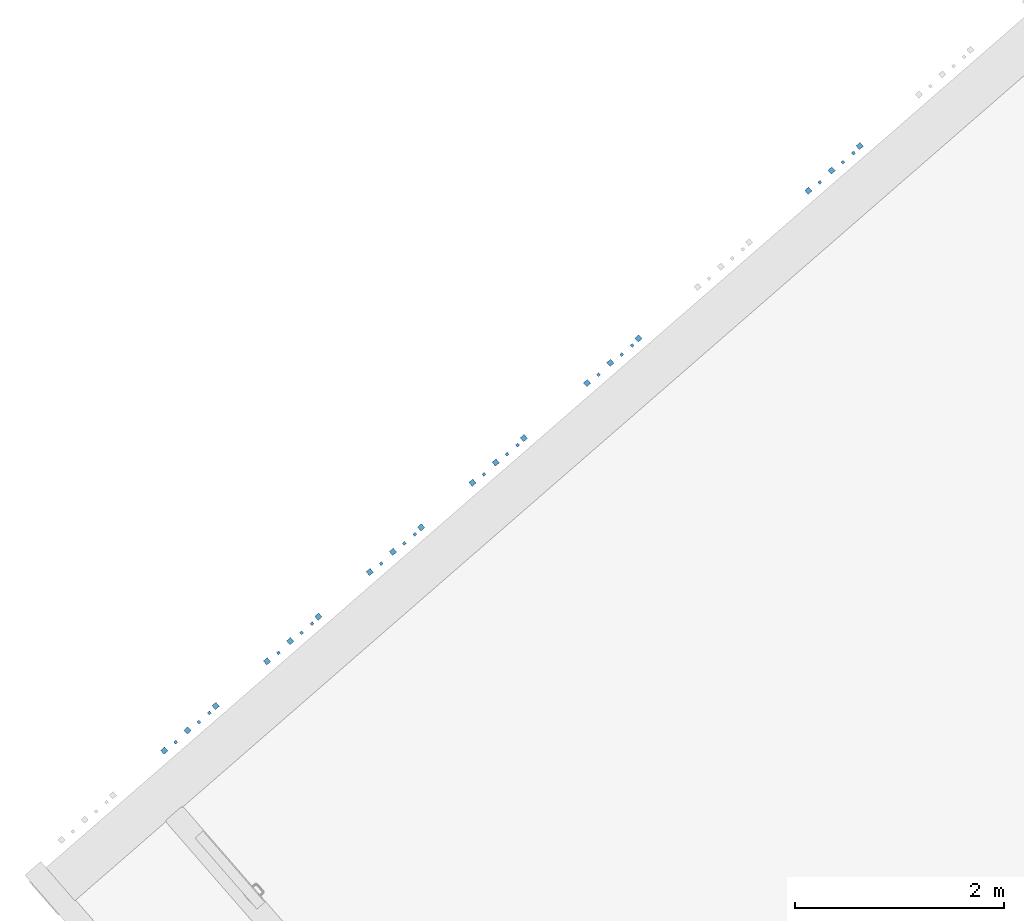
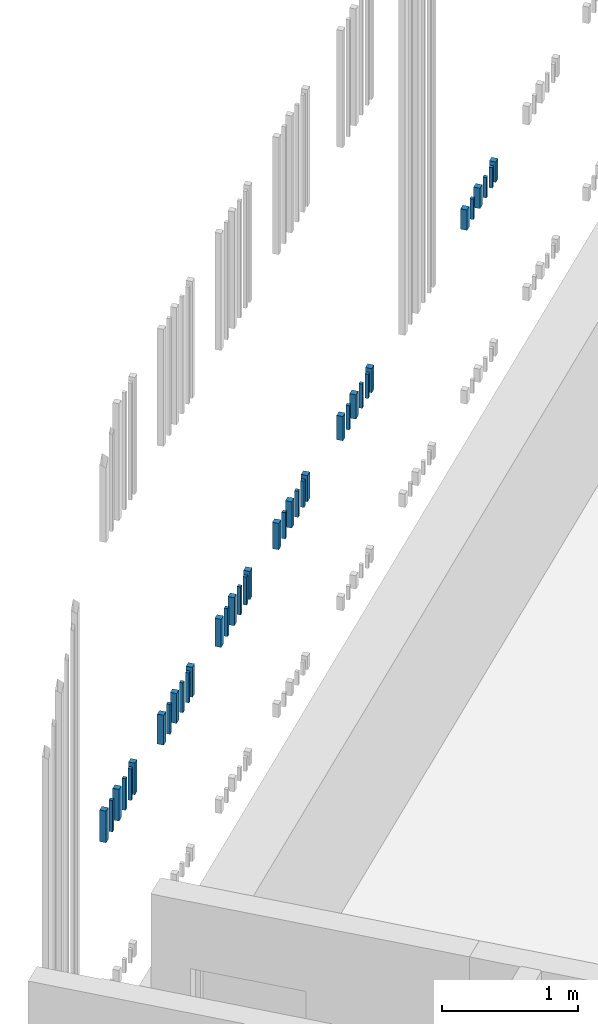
# One storey, part 94 of 124: 36 walls.
"""IFC2X3 building model written with IfcOpenShell, lengths in millimetres."""

from ifc_helpers import new_model, entity, si_unit, converted_unit, derived_unit, money_unit, direction, frame, origin_with_axes, place, context, subcontext, project, spatial, faceted_brep, material, type_object, element, save


model = new_model("IFC2X3")

# Units and contexts
model_context = context("Model", 3, precision=1e-05, world=origin_with_axes(), true_north=direction((0.0, 1.0)))
body_context = subcontext(model_context, "Body", "Model", "MODEL_VIEW")
ifc_project = project(units=[si_unit("LENGTHUNIT", "METRE", prefix="MILLI"), si_unit("AREAUNIT", "SQUARE_METRE"), si_unit("VOLUMEUNIT", "CUBIC_METRE"), converted_unit("PLANEANGLEUNIT", "DEGREE", entity("IfcPlaneAngleMeasure", 0.0174532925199), si_unit("PLANEANGLEUNIT", "RADIAN"), dimensions=[0, 0, 0, 0, 0, 0, 0]), si_unit("SOLIDANGLEUNIT", "STERADIAN"), money_unit("EUR"), converted_unit("TIMEUNIT", "Year", entity("IfcTimeMeasure", 31556926.0), si_unit("TIMEUNIT", "SECOND"), dimensions=[0, 0, 1, 0, 0, 0, 0]), si_unit("MASSUNIT", "GRAM", prefix="KILO"), si_unit("THERMODYNAMICTEMPERATUREUNIT", "DEGREE_CELSIUS"), si_unit("LUMINOUSINTENSITYUNIT", "LUMEN"), si_unit("ENERGYUNIT", "JOULE", prefix="MEGA"), derived_unit("THERMALCONDUCTANCEUNIT", [(si_unit("POWERUNIT", "WATT"), 1), (si_unit("LENGTHUNIT", "METRE"), -1), (si_unit("THERMODYNAMICTEMPERATUREUNIT", "KELVIN"), -1)]), derived_unit("SPECIFICHEATCAPACITYUNIT", [(si_unit("ENERGYUNIT", "JOULE"), 1), (si_unit("MASSUNIT", "GRAM", prefix="KILO"), -1), (si_unit("THERMODYNAMICTEMPERATUREUNIT", "KELVIN"), -1)]), derived_unit("MASSDENSITYUNIT", [(si_unit("MASSUNIT", "GRAM", prefix="KILO"), 1), (si_unit("VOLUMEUNIT", "CUBIC_METRE"), -1)])], contexts=[model_context])

# Site, building, storey
site_placement = place(None, origin_with_axes())
site = spatial("IfcSite", under=ifc_project, at=site_placement, Name="Site", CompositionType="ELEMENT")
building_placement = place(site_placement, origin_with_axes())
building = spatial("IfcBuilding", under=site, at=building_placement, Name="Building", CompositionType="ELEMENT")
storey_placement = place(building_placement, frame((0.0, 0.0, -1615.0), z_axis=(0.0, 0.0, 1.0), x_axis=(1.0, 0.0, 0.0)))
storey = spatial("IfcBuildingStorey", under=building, at=storey_placement, Name="0  korrus", CompositionType="ELEMENT", Elevation=-1615.0)

# Walls
ifc_material = material(Name="Site specified")
wall_type = type_object("IfcWallType", Name="Puitfassaadi ribistik", PredefinedType="NOTDEFINED")
wall_1_placement = place(storey_placement, frame((138837.657922, 90711.5753852, 3075.70557961), z_axis=(0.0, 0.0, 1.0), x_axis=(0.754709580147, 0.656059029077, 0.0)))
element("IfcWall", 1, at=wall_1_placement, inside=storey, type_object=wall_type, material=ifc_material, Name="Site specified", context=body_context, shape_type="Brep", body=[
    faceted_brep([(14.0, 14.0, 283.294420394), (14.0, 14.0, 0.0), (-14.0, 14.0, 0.0), (-14.0, 14.0, 283.294420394), (14.0, -14.0, 283.294420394), (14.0, -14.0, 0.0), (-14.0, -14.0, 0.0), (-14.0, -14.0, 283.294420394)], [[[0, 1, 2, 3]], [[4, 5, 1, 0]], [[2, 1, 5, 6]], [[3, 2, 6, 7]], [[4, 0, 3, 7]], [[7, 6, 5, 4]]]),
])
wall_2_placement = place(storey_placement, frame((138507.423715, 90439.0823112, 3075.70557961), z_axis=(0.0, 0.0, 1.0), x_axis=(0.754709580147, 0.656059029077, 0.0)))
element("IfcWall", 2, at=wall_2_placement, inside=storey, type_object=wall_type, material=ifc_material, Name="Site specified", context=body_context, shape_type="Brep", body=[
    faceted_brep([(25.0, 25.0, 283.294420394), (25.0, 25.0, 0.0), (-25.0, 25.0, 0.0), (-25.0, 25.0, 283.294420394), (25.0, -25.0, 283.294420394), (25.0, -25.0, 0.0), (-25.0, -25.0, 0.0), (-25.0, -25.0, 283.294420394)], [[[0, 1, 2, 3]], [[4, 5, 1, 0]], [[2, 1, 5, 6]], [[3, 2, 6, 7]], [[4, 0, 3, 7]], [[7, 6, 5, 4]]]),
])
for number, where, z_axis, x_axis, name in (
    (3, (138616.528037, 90519.3501086, 3075.70557961), (0.0, 0.0, 1.0), (0.754709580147, 0.656059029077, 0.0), "Site specified"),
    (4, (138938.034296, 90798.8312355, 3075.70557961), (0.0, 0.0, 1.0), (0.754709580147, 0.656059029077, 0.0), "Site specified"),
):
    element("IfcWall", number, at=place(storey_placement, frame(where, z_axis=z_axis, x_axis=x_axis)), inside=storey, type_object=wall_type, material=ifc_material, Name=name, context=body_context, shape_type="Brep", body=[
        faceted_brep([(14.0, 14.0, 283.294420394), (14.0, 14.0, 0.0), (-14.0, 14.0, 0.0), (-14.0, 14.0, 283.294420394), (14.0, -14.0, 283.294420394), (14.0, -14.0, 0.0), (-14.0, -14.0, 0.0), (-14.0, -14.0, 283.294420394)], [[[0, 1, 2, 3]], [[4, 5, 1, 0]], [[2, 1, 5, 6]], [[3, 2, 6, 7]], [[4, 0, 3, 7]], [[7, 6, 5, 4]]]),
    ])
for number, where, z_axis, x_axis, name in (
    (5, (138997.989192, 90865.5243744, 3075.70557961), (0.0, 0.0, 1.0), (0.754709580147, 0.656059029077, 0.0), "Site specified"),
    (6, (138729.30833, 90631.9636643, 3075.70557961), (0.0, 0.0, 1.0), (0.754709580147, 0.656059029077, 0.0), "Site specified"),
):
    element("IfcWall", number, at=place(storey_placement, frame(where, z_axis=z_axis, x_axis=x_axis)), inside=storey, type_object=wall_type, material=ifc_material, Name=name, context=body_context, shape_type="Brep", body=[
        faceted_brep([(25.0, 25.0, 283.294420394), (25.0, 25.0, 0.0), (-25.0, 25.0, 0.0), (-25.0, 25.0, 283.294420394), (25.0, -25.0, 283.294420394), (25.0, -25.0, 0.0), (-25.0, -25.0, 0.0), (-25.0, -25.0, 283.294420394)], [[[0, 1, 2, 3]], [[4, 5, 1, 0]], [[2, 1, 5, 6]], [[3, 2, 6, 7]], [[4, 0, 3, 7]], [[7, 6, 5, 4]]]),
    ])
for number, where, z_axis, x_axis, name in (
    (7, (139710.430781, 91484.8403996, 3090.84926597), (0.0, 0.0, 1.0), (0.754709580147, 0.656059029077, 0.0), "Site specified"),
    (8, (139979.111643, 91718.4011098, 3090.84926597), (0.0, 0.0, 1.0), (0.754709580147, 0.656059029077, 0.0), "Site specified"),
):
    element("IfcWall", number, at=place(storey_placement, frame(where, z_axis=z_axis, x_axis=x_axis)), inside=storey, type_object=wall_type, material=ifc_material, Name=name, context=body_context, shape_type="Brep", body=[
        faceted_brep([(25.0, 25.0, 268.150734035), (25.0, 25.0, 0.0), (-25.0, 25.0, 0.0), (-25.0, 25.0, 268.150734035), (25.0, -25.0, 268.150734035), (25.0, -25.0, 0.0), (-25.0, -25.0, 0.0), (-25.0, -25.0, 268.150734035)], [[[0, 1, 2, 3]], [[4, 5, 1, 0]], [[2, 1, 5, 6]], [[3, 2, 6, 7]], [[4, 0, 3, 7]], [[7, 6, 5, 4]]]),
    ])
wall_3_placement = place(storey_placement, frame((139818.780374, 91564.4521205, 3090.84926597), z_axis=(0.0, 0.0, 1.0), x_axis=(0.754709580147, 0.656059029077, 0.0)))
element("IfcWall", 9, at=wall_3_placement, inside=storey, type_object=wall_type, material=ifc_material, Name="Site specified", context=body_context, shape_type="Brep", body=[
    faceted_brep([(14.0, 14.0, 268.150734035), (14.0, 14.0, 0.0), (-14.0, 14.0, 0.0), (-14.0, 14.0, 268.150734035), (14.0, -14.0, 268.150734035), (14.0, -14.0, 0.0), (-14.0, -14.0, 0.0), (-14.0, -14.0, 268.150734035)], [[[0, 1, 2, 3]], [[4, 5, 1, 0]], [[2, 1, 5, 6]], [[3, 2, 6, 7]], [[4, 0, 3, 7]], [[7, 6, 5, 4]]]),
])
wall_4_placement = place(storey_placement, frame((139488.546166, 91291.9590465, 3090.84926597), z_axis=(0.0, 0.0, 1.0), x_axis=(0.754709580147, 0.656059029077, 0.0)))
element("IfcWall", 10, at=wall_4_placement, inside=storey, type_object=wall_type, material=ifc_material, Name="Site specified", context=body_context, shape_type="Brep", body=[
    faceted_brep([(25.0, 25.0, 268.150734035), (25.0, 25.0, 0.0), (-25.0, 25.0, 0.0), (-25.0, 25.0, 268.150734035), (25.0, -25.0, 268.150734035), (25.0, -25.0, 0.0), (-25.0, -25.0, 0.0), (-25.0, -25.0, 268.150734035)], [[[0, 1, 2, 3]], [[4, 5, 1, 0]], [[2, 1, 5, 6]], [[3, 2, 6, 7]], [[4, 0, 3, 7]], [[7, 6, 5, 4]]]),
])
for number, where, z_axis, x_axis, name in (
    (11, (139919.156747, 91651.7079708, 3090.84926597), (0.0, 0.0, 1.0), (0.754709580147, 0.656059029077, 0.0), "Site specified"),
    (12, (139597.650489, 91372.2268439, 3090.84926597), (0.0, 0.0, 1.0), (0.754709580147, 0.656059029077, 0.0), "Site specified"),
):
    element("IfcWall", number, at=place(storey_placement, frame(where, z_axis=z_axis, x_axis=x_axis)), inside=storey, type_object=wall_type, material=ifc_material, Name=name, context=body_context, shape_type="Brep", body=[
        faceted_brep([(14.0, 14.0, 268.150734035), (14.0, 14.0, 0.0), (-14.0, 14.0, 0.0), (-14.0, 14.0, 268.150734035), (14.0, -14.0, 268.150734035), (14.0, -14.0, 0.0), (-14.0, -14.0, 0.0), (-14.0, -14.0, 268.150734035)], [[[0, 1, 2, 3]], [[4, 5, 1, 0]], [[2, 1, 5, 6]], [[3, 2, 6, 7]], [[4, 0, 3, 7]], [[7, 6, 5, 4]]]),
    ])
for number, where, z_axis, x_axis, name in (
    (13, (140960.2341, 92571.2778501, 3106.90171915), (0.0, 0.0, 1.0), (0.754709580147, 0.656059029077, 0.0), "Site specified"),
    (14, (140691.553238, 92337.7171399, 3106.90171915), (0.0, 0.0, 1.0), (0.754709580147, 0.656059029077, 0.0), "Site specified"),
):
    element("IfcWall", number, at=place(storey_placement, frame(where, z_axis=z_axis, x_axis=x_axis)), inside=storey, type_object=wall_type, material=ifc_material, Name=name, context=body_context, shape_type="Brep", body=[
        faceted_brep([(25.0, 25.0, 252.09828085), (25.0, 25.0, 0.0), (-25.0, 25.0, 0.0), (-25.0, 25.0, 252.09828085), (25.0, -25.0, 252.09828085), (25.0, -25.0, 0.0), (-25.0, -25.0, 0.0), (-25.0, -25.0, 252.09828085)], [[[0, 1, 2, 3]], [[4, 5, 1, 0]], [[2, 1, 5, 6]], [[3, 2, 6, 7]], [[4, 0, 3, 7]], [[7, 6, 5, 4]]]),
    ])
for number, where, z_axis, x_axis, name in (
    (15, (140578.772946, 92225.1035843, 3106.90171915), (0.0, 0.0, 1.0), (0.754709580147, 0.656059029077, 0.0), "Site specified"),
    (16, (140799.902831, 92417.3288608, 3106.90171915), (0.0, 0.0, 1.0), (0.754709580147, 0.656059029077, 0.0), "Site specified"),
    (17, (140900.279204, 92504.5847111, 3106.90171915), (0.0, 0.0, 1.0), (0.754709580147, 0.656059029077, 0.0), "Site specified"),
):
    element("IfcWall", number, at=place(storey_placement, frame(where, z_axis=z_axis, x_axis=x_axis)), inside=storey, type_object=wall_type, material=ifc_material, Name=name, context=body_context, shape_type="Brep", body=[
        faceted_brep([(14.0, 14.0, 252.09828085), (14.0, 14.0, 0.0), (-14.0, 14.0, 0.0), (-14.0, 14.0, 252.09828085), (14.0, -14.0, 252.09828085), (14.0, -14.0, 0.0), (-14.0, -14.0, 0.0), (-14.0, -14.0, 252.09828085)], [[[0, 1, 2, 3]], [[4, 5, 1, 0]], [[2, 1, 5, 6]], [[3, 2, 6, 7]], [[4, 0, 3, 7]], [[7, 6, 5, 4]]]),
    ])
wall_5_placement = place(storey_placement, frame((144658.306793, 95785.9633982, 3175.68890067), z_axis=(0.0, 0.0, 1.0), x_axis=(0.754709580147, 0.656059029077, 0.0)))
element("IfcWall", 18, at=wall_5_placement, inside=storey, type_object=wall_type, material=ifc_material, Name="Site specified", context=body_context, shape_type="Brep", body=[
    faceted_brep([(25.0, 25.0, 183.31109933), (25.0, 25.0, 0.0), (-25.0, 25.0, 0.0), (-25.0, 25.0, 183.31109933), (25.0, -25.0, 183.31109933), (25.0, -25.0, 0.0), (-25.0, -25.0, 0.0), (-25.0, -25.0, 183.31109933)], [[[0, 1, 2, 3]], [[4, 5, 1, 0]], [[2, 1, 5, 6]], [[3, 2, 6, 7]], [[4, 0, 3, 7]], [[7, 6, 5, 4]]]),
])
for number, where, z_axis, x_axis, name in (
    (19, (144767.411115, 95866.2311957, 3175.68890067), (0.0, 0.0, 1.0), (0.754709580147, 0.656059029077, 0.0), "Site specified"),
    (20, (145088.917374, 96145.7123225, 3175.68890067), (0.0, 0.0, 1.0), (0.754709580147, 0.656059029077, 0.0), "Site specified"),
):
    element("IfcWall", number, at=place(storey_placement, frame(where, z_axis=z_axis, x_axis=x_axis)), inside=storey, type_object=wall_type, material=ifc_material, Name=name, context=body_context, shape_type="Brep", body=[
        faceted_brep([(14.0, 14.0, 183.31109933), (14.0, 14.0, 0.0), (-14.0, 14.0, 0.0), (-14.0, 14.0, 183.31109933), (14.0, -14.0, 183.31109933), (14.0, -14.0, 0.0), (-14.0, -14.0, 0.0), (-14.0, -14.0, 183.31109933)], [[[0, 1, 2, 3]], [[4, 5, 1, 0]], [[2, 1, 5, 6]], [[3, 2, 6, 7]], [[4, 0, 3, 7]], [[7, 6, 5, 4]]]),
    ])
wall_6_placement = place(storey_placement, frame((145148.87227, 96212.4054615, 3175.68890067), z_axis=(0.0, 0.0, 1.0), x_axis=(0.754709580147, 0.656059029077, 0.0)))
element("IfcWall", 21, at=wall_6_placement, inside=storey, type_object=wall_type, material=ifc_material, Name="Site specified", context=body_context, shape_type="Brep", body=[
    faceted_brep([(25.0, 25.0, 183.31109933), (25.0, 25.0, 0.0), (-25.0, 25.0, 0.0), (-25.0, 25.0, 183.31109933), (25.0, -25.0, 183.31109933), (25.0, -25.0, 0.0), (-25.0, -25.0, 0.0), (-25.0, -25.0, 183.31109933)], [[[0, 1, 2, 3]], [[4, 5, 1, 0]], [[2, 1, 5, 6]], [[3, 2, 6, 7]], [[4, 0, 3, 7]], [[7, 6, 5, 4]]]),
])
wall_7_placement = place(storey_placement, frame((144988.541001, 96058.4564722, 3175.68890067), z_axis=(0.0, 0.0, 1.0), x_axis=(0.754709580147, 0.656059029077, 0.0)))
element("IfcWall", 22, at=wall_7_placement, inside=storey, type_object=wall_type, material=ifc_material, Name="Site specified", context=body_context, shape_type="Brep", body=[
    faceted_brep([(14.0, 14.0, 183.31109933), (14.0, 14.0, 0.0), (-14.0, 14.0, 0.0), (-14.0, 14.0, 183.31109933), (14.0, -14.0, 183.31109933), (14.0, -14.0, 0.0), (-14.0, -14.0, 0.0), (-14.0, -14.0, 183.31109933)], [[[0, 1, 2, 3]], [[4, 5, 1, 0]], [[2, 1, 5, 6]], [[3, 2, 6, 7]], [[4, 0, 3, 7]], [[7, 6, 5, 4]]]),
])
wall_8_placement = place(storey_placement, frame((144880.191408, 95978.8447513, 3175.68890067), z_axis=(0.0, 0.0, 1.0), x_axis=(0.754709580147, 0.656059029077, 0.0)))
element("IfcWall", 23, at=wall_8_placement, inside=storey, type_object=wall_type, material=ifc_material, Name="Site specified", context=body_context, shape_type="Brep", body=[
    faceted_brep([(25.0, 25.0, 183.31109933), (25.0, 25.0, 0.0), (-25.0, 25.0, 0.0), (-25.0, 25.0, 183.31109933), (25.0, -25.0, 183.31109933), (25.0, -25.0, 0.0), (-25.0, -25.0, 0.0), (-25.0, -25.0, 183.31109933)], [[[0, 1, 2, 3]], [[4, 5, 1, 0]], [[2, 1, 5, 6]], [[3, 2, 6, 7]], [[4, 0, 3, 7]], [[7, 6, 5, 4]]]),
])
wall_9_placement = place(storey_placement, frame((140469.668623, 92144.8357868, 3106.90171915), z_axis=(0.0, 0.0, 1.0), x_axis=(0.754709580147, 0.656059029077, 0.0)))
element("IfcWall", 24, at=wall_9_placement, inside=storey, type_object=wall_type, material=ifc_material, Name="Site specified", context=body_context, shape_type="Brep", body=[
    faceted_brep([(25.0, 25.0, 252.09828085), (25.0, 25.0, 0.0), (-25.0, 25.0, 0.0), (-25.0, 25.0, 252.09828085), (25.0, -25.0, 252.09828085), (25.0, -25.0, 0.0), (-25.0, -25.0, 0.0), (-25.0, -25.0, 252.09828085)], [[[0, 1, 2, 3]], [[4, 5, 1, 0]], [[2, 1, 5, 6]], [[3, 2, 6, 7]], [[4, 0, 3, 7]], [[7, 6, 5, 4]]]),
])
wall_10_placement = place(storey_placement, frame((141559.895155, 93077.9801088, 3122.99357175), z_axis=(0.0, 0.0, 1.0), x_axis=(0.754709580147, 0.656059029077, 0.0)))
element("IfcWall", 25, at=wall_10_placement, inside=storey, type_object=wall_type, material=ifc_material, Name="Site specified", context=body_context, shape_type="Brep", body=[
    faceted_brep([(14.0, 14.0, 236.006428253), (14.0, 14.0, 0.0), (-14.0, 14.0, 0.0), (-14.0, 14.0, 236.006428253), (14.0, -14.0, 236.006428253), (14.0, -14.0, 0.0), (-14.0, -14.0, 0.0), (-14.0, -14.0, 236.006428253)], [[[0, 1, 2, 3]], [[4, 5, 1, 0]], [[2, 1, 5, 6]], [[3, 2, 6, 7]], [[4, 0, 3, 7]], [[7, 6, 5, 4]]]),
])
wall_11_placement = place(storey_placement, frame((141450.790832, 92997.7123114, 3122.99357175), z_axis=(0.0, 0.0, 1.0), x_axis=(0.754709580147, 0.656059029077, 0.0)))
element("IfcWall", 26, at=wall_11_placement, inside=storey, type_object=wall_type, material=ifc_material, Name="Site specified", context=body_context, shape_type="Brep", body=[
    faceted_brep([(25.0, 25.0, 236.006428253), (25.0, 25.0, 0.0), (-25.0, 25.0, 0.0), (-25.0, 25.0, 236.006428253), (25.0, -25.0, 236.006428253), (25.0, -25.0, 0.0), (-25.0, -25.0, 0.0), (-25.0, -25.0, 236.006428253)], [[[0, 1, 2, 3]], [[4, 5, 1, 0]], [[2, 1, 5, 6]], [[3, 2, 6, 7]], [[4, 0, 3, 7]], [[7, 6, 5, 4]]]),
])
for number, where, z_axis, x_axis, name in (
    (27, (141881.401413, 93357.4612357, 3122.99357175), (0.0, 0.0, 1.0), (0.754709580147, 0.656059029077, 0.0), "Site specified"),
    (28, (141781.02504, 93270.2053854, 3122.99357175), (0.0, 0.0, 1.0), (0.754709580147, 0.656059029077, 0.0), "Site specified"),
):
    element("IfcWall", number, at=place(storey_placement, frame(where, z_axis=z_axis, x_axis=x_axis)), inside=storey, type_object=wall_type, material=ifc_material, Name=name, context=body_context, shape_type="Brep", body=[
        faceted_brep([(14.0, 14.0, 236.006428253), (14.0, 14.0, 0.0), (-14.0, 14.0, 0.0), (-14.0, 14.0, 236.006428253), (14.0, -14.0, 236.006428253), (14.0, -14.0, 0.0), (-14.0, -14.0, 0.0), (-14.0, -14.0, 236.006428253)], [[[0, 1, 2, 3]], [[4, 5, 1, 0]], [[2, 1, 5, 6]], [[3, 2, 6, 7]], [[4, 0, 3, 7]], [[7, 6, 5, 4]]]),
    ])
for number, where, z_axis, x_axis, name in (
    (29, (141941.356309, 93424.1543746, 3122.99357175), (0.0, 0.0, 1.0), (0.754709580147, 0.656059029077, 0.0), "Site specified"),
    (30, (141672.675447, 93190.5936645, 3122.99357175), (0.0, 0.0, 1.0), (0.754709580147, 0.656059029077, 0.0), "Site specified"),
):
    element("IfcWall", number, at=place(storey_placement, frame(where, z_axis=z_axis, x_axis=x_axis)), inside=storey, type_object=wall_type, material=ifc_material, Name=name, context=body_context, shape_type="Brep", body=[
        faceted_brep([(25.0, 25.0, 236.006428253), (25.0, 25.0, 0.0), (-25.0, 25.0, 0.0), (-25.0, 25.0, 236.006428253), (25.0, -25.0, 236.006428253), (25.0, -25.0, 0.0), (-25.0, -25.0, 0.0), (-25.0, -25.0, 236.006428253)], [[[0, 1, 2, 3]], [[4, 5, 1, 0]], [[2, 1, 5, 6]], [[3, 2, 6, 7]], [[4, 0, 3, 7]], [[7, 6, 5, 4]]]),
    ])
wall_12_placement = place(storey_placement, frame((142545.119969, 93948.9981168, 3140.96357238), z_axis=(0.0, 0.0, 1.0), x_axis=(0.754709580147, 0.656059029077, 0.0)))
element("IfcWall", 31, at=wall_12_placement, inside=storey, type_object=wall_type, material=ifc_material, Name="Site specified", context=body_context, shape_type="Brep", body=[
    faceted_brep([(25.0, 25.0, 218.036427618), (25.0, 25.0, 0.0), (-25.0, 25.0, 0.0), (-25.0, 25.0, 218.036427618), (25.0, -25.0, 218.036427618), (25.0, -25.0, 0.0), (-25.0, -25.0, 0.0), (-25.0, -25.0, 218.036427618)], [[[0, 1, 2, 3]], [[4, 5, 1, 0]], [[2, 1, 5, 6]], [[3, 2, 6, 7]], [[4, 0, 3, 7]], [[7, 6, 5, 4]]]),
])
for number, where, z_axis, x_axis, name in (
    (32, (142654.224291, 94029.2659142, 3140.96357238), (0.0, 0.0, 1.0), (0.754709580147, 0.656059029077, 0.0), "Site specified"),
    (33, (142975.73055, 94308.7470411, 3140.96357238), (0.0, 0.0, 1.0), (0.754709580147, 0.656059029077, 0.0), "Site specified"),
    (34, (142875.354176, 94221.4911908, 3140.96357238), (0.0, 0.0, 1.0), (0.754709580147, 0.656059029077, 0.0), "Site specified"),
):
    element("IfcWall", number, at=place(storey_placement, frame(where, z_axis=z_axis, x_axis=x_axis)), inside=storey, type_object=wall_type, material=ifc_material, Name=name, context=body_context, shape_type="Brep", body=[
        faceted_brep([(14.0, 14.0, 218.036427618), (14.0, 14.0, 0.0), (-14.0, 14.0, 0.0), (-14.0, 14.0, 218.036427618), (14.0, -14.0, 218.036427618), (14.0, -14.0, 0.0), (-14.0, -14.0, 0.0), (-14.0, -14.0, 218.036427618)], [[[0, 1, 2, 3]], [[4, 5, 1, 0]], [[2, 1, 5, 6]], [[3, 2, 6, 7]], [[4, 0, 3, 7]], [[7, 6, 5, 4]]]),
    ])
for number, where, z_axis, x_axis, name in (
    (35, (143035.685446, 94375.4401801, 3140.96357238), (0.0, 0.0, 1.0), (0.754709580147, 0.656059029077, 0.0), "Site specified"),
    (36, (142767.004584, 94141.8794699, 3140.96357238), (0.0, 0.0, 1.0), (0.754709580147, 0.656059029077, 0.0), "Site specified"),
):
    element("IfcWall", number, at=place(storey_placement, frame(where, z_axis=z_axis, x_axis=x_axis)), inside=storey, type_object=wall_type, material=ifc_material, Name=name, context=body_context, shape_type="Brep", body=[
        faceted_brep([(25.0, 25.0, 218.036427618), (25.0, 25.0, 0.0), (-25.0, 25.0, 0.0), (-25.0, 25.0, 218.036427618), (25.0, -25.0, 218.036427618), (25.0, -25.0, 0.0), (-25.0, -25.0, 0.0), (-25.0, -25.0, 218.036427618)], [[[0, 1, 2, 3]], [[4, 5, 1, 0]], [[2, 1, 5, 6]], [[3, 2, 6, 7]], [[4, 0, 3, 7]], [[7, 6, 5, 4]]]),
    ])

save(model, "model.ifc")
